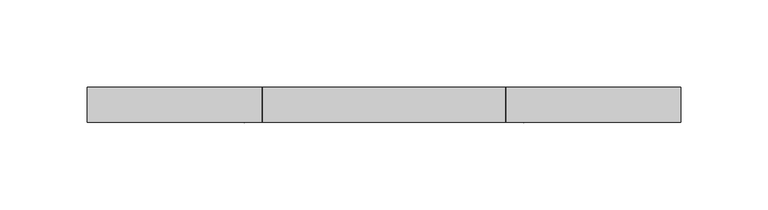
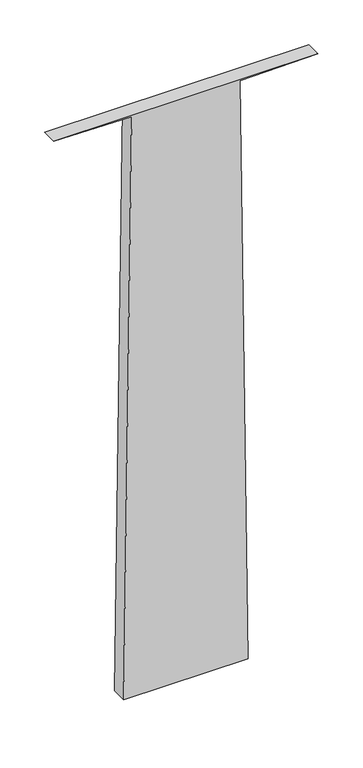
"""IFC4 building model written with IfcOpenShell, lengths in millimetres: plate geometry, 空系统嵌板 : 空."""

from ifc_helpers import new_model, si_unit, frame, origin, place, context, project, spatial, polyline, outline, extrude, source, transform, mapped, element, save


def plate_ecf98e0f(model_context):
    return source(origin(), model_context, "Body", "SweptSolid", [
        extrude(outline(polyline([(0.0, -79.9940926), (0.0, 79.9940926), (788.7545724, 69.8031684), (790.0464918, 169.7948228), (790.0464918, -169.7948228), (788.7545724, -69.8031684), (0.0, -79.9940926)])), frame((0.0, -10.0, 0.0), z_axis=(0.0, 1.0, 0.0), x_axis=(0.0, 0.0, 1.0)), (0.0, 0.0, 1.0), 20.0),
    ])


if __name__ == "__main__":
    model = new_model("IFC4")
    model_context = context("Model", 3, world=origin())
    ifc_project = project(units=[si_unit("LENGTHUNIT", "METRE", prefix="MILLI")], contexts=[model_context])
    site = spatial("IfcSite", under=ifc_project)
    building = spatial("IfcBuilding", under=site)
    placement = place(None, origin())
    plate_shape = plate_ecf98e0f(model_context)
    element("IfcPlate", 1, ObjectType="空系统嵌板 : 空", at=placement, inside=building, context=model_context, shape_type="MappedRepresentation", body=[
        mapped(plate_shape, transform((0.0, 0.0, 0.0), x_axis=(1.0, 0.0, 0.0), y_axis=(0.0, 1.0, 0.0), z_axis=(0.0, 0.0, 1.0))),
    ])
    save(model, "model.ifc")
